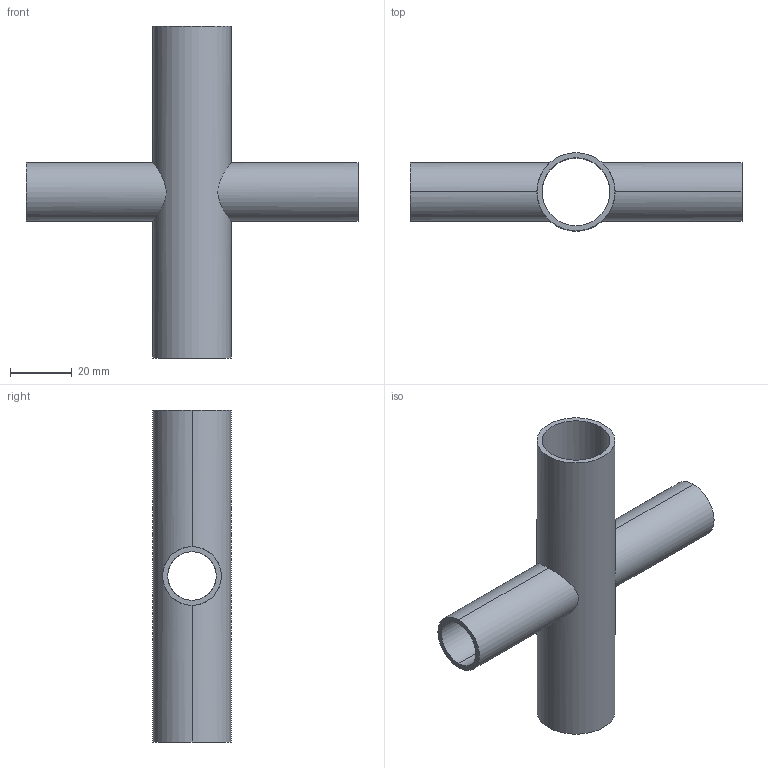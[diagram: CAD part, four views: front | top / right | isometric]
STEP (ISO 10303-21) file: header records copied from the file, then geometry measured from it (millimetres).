
FILE_DESCRIPTION (( 'STEP AP214' ), '1' );
FILE_NAME ('TE9RWWWW6L1.0x.75-...STEP', '2016-05-22T04:11:53', ( 'eran' ), ( '' ), 'SwSTEP 2.0', 'SolidWorks 2016', '' );
FILE_SCHEMA (( 'AUTOMOTIVE_DESIGN' ));
Length unit declared in the file: millimetre
Products named in the file (1): TE9RWWWW6L1.0x.75-..
Bounding box: 107.95 x 25.4 x 107.95 mm (x, y, z)
Volume: 20363.2 mm3; surface area: 25079.8 mm2
Topology: 1 solids, 1 shells, 16 faces, 40 edges, 24 vertices
Faces by surface type: cylinder 12, plane 4
Entity records: 898 total; most frequent: CARTESIAN_POINT 473, DIRECTION 82, ORIENTED_EDGE 80, EDGE_CURVE 40, AXIS2_PLACEMENT_3D 33, VERTEX_POINT 24, EDGE_LOOP 20, VECTOR 16
